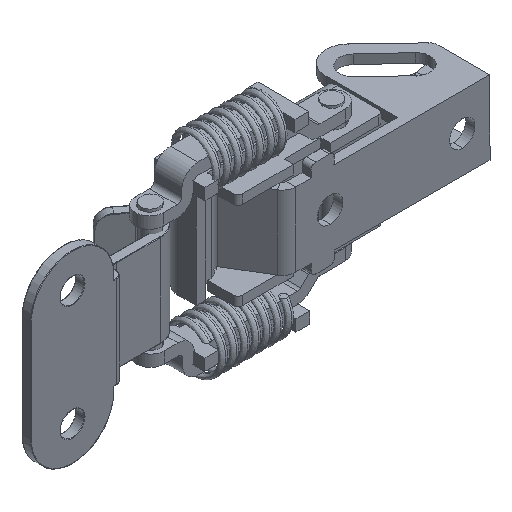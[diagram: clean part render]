
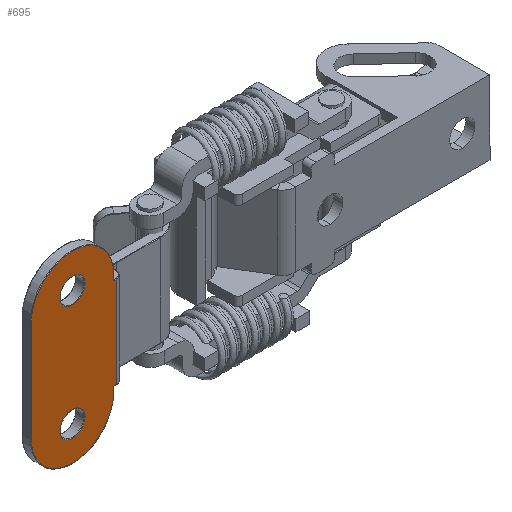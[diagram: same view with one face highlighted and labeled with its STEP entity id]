
A CAD part, isometric view. The second image highlights one B-rep face of the part: STEP entity #695.
In plain terms, the highlighted planar face has unit normal (0, -1, 0).
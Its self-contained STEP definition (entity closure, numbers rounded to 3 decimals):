
#559 = EDGE_CURVE ( 'NONE', #563, #639, #2573, .T. ) ;
#563 = VERTEX_POINT ( 'NONE', #2557 ) ;
#571 = VERTEX_POINT ( 'NONE', #2610 ) ;
#631 = EDGE_CURVE ( 'NONE', #634, #571, #2725, .T. ) ;
#634 = VERTEX_POINT ( 'NONE', #2726 ) ;
#639 = VERTEX_POINT ( 'NONE', #2730 ) ;
#648 = VERTEX_POINT ( 'NONE', #2755 ) ;
#650 = VERTEX_POINT ( 'NONE', #2749 ) ;
#652 = ORIENTED_EDGE ( 'NONE', *, *, #721, .T. ) ;
#682 = EDGE_CURVE ( 'NONE', #696, #648, #2819, .T. ) ;
#683 = VERTEX_POINT ( 'NONE', #2811 ) ;
#684 = VERTEX_POINT ( 'NONE', #2810 ) ;
#685 = ORIENTED_EDGE ( 'NONE', *, *, #682, .F. ) ;
#686 = EDGE_CURVE ( 'NONE', #696, #650, #2770, .T. ) ;
#687 = ORIENTED_EDGE ( 'NONE', *, *, #686, .T. ) ;
#688 = EDGE_CURVE ( 'NONE', #650, #684, #2816, .T. ) ;
#689 = EDGE_CURVE ( 'NONE', #764, #702, #2858, .T. ) ;
#690 = EDGE_CURVE ( 'NONE', #684, #683, #2859, .T. ) ;
#692 = ORIENTED_EDGE ( 'NONE', *, *, #756, .T. ) ;
#693 = EDGE_CURVE ( 'NONE', #683, #694, #2802, .T. ) ;
#694 = VERTEX_POINT ( 'NONE', #2848 ) ;
#695 = ADVANCED_FACE ( 'NONE', ( #2843, #2846, #2845 ), #2854, .F. ) ;
#696 = VERTEX_POINT ( 'NONE', #2842 ) ;
#697 = ORIENTED_EDGE ( 'NONE', *, *, #631, .T. ) ;
#698 = ORIENTED_EDGE ( 'NONE', *, *, #719, .T. ) ;
#700 = ORIENTED_EDGE ( 'NONE', *, *, #559, .T. ) ;
#701 = EDGE_CURVE ( 'NONE', #702, #703, #2833, .T. ) ;
#702 = VERTEX_POINT ( 'NONE', #2834 ) ;
#703 = VERTEX_POINT ( 'NONE', #2836 ) ;
#704 = EDGE_LOOP ( 'NONE', ( #705, #707, #685, #687, #706, #718, #755, #692, #760 ) ) ;
#705 = ORIENTED_EDGE ( 'NONE', *, *, #701, .T. ) ;
#706 = ORIENTED_EDGE ( 'NONE', *, *, #688, .T. ) ;
#707 = ORIENTED_EDGE ( 'NONE', *, *, #708, .T. ) ;
#708 = EDGE_CURVE ( 'NONE', #703, #648, #2847, .T. ) ;
#718 = ORIENTED_EDGE ( 'NONE', *, *, #690, .T. ) ;
#719 = EDGE_CURVE ( 'NONE', #639, #563, #2875, .T. ) ;
#720 = EDGE_LOOP ( 'NONE', ( #700, #698 ) ) ;
#721 = EDGE_CURVE ( 'NONE', #571, #634, #2870, .T. ) ;
#722 = EDGE_LOOP ( 'NONE', ( #697, #652 ) ) ;
#755 = ORIENTED_EDGE ( 'NONE', *, *, #693, .T. ) ;
#756 = EDGE_CURVE ( 'NONE', #694, #764, #2956, .T. ) ;
#760 = ORIENTED_EDGE ( 'NONE', *, *, #689, .T. ) ;
#764 = VERTEX_POINT ( 'NONE', #2957 ) ;
#2557 = CARTESIAN_POINT ( 'NONE',  ( 7.5, 0., -6.3 ) ) ;
#2560 = DIRECTION ( 'NONE',  ( 0., 0., 1. ) ) ;
#2561 = DIRECTION ( 'NONE',  ( 0., 1., 0. ) ) ;
#2562 = CARTESIAN_POINT ( 'NONE',  ( 7.5, 0., -9. ) ) ;
#2563 = AXIS2_PLACEMENT_3D ( 'NONE', #2562, #2561, #2560 ) ;
#2573 = CIRCLE ( 'NONE', #2563, 2.7 ) ;
#2610 = CARTESIAN_POINT ( 'NONE',  ( 32.5, 0., -11.7 ) ) ;
#2681 = DIRECTION ( 'NONE',  ( 0., 1., 0. ) ) ;
#2723 = DIRECTION ( 'NONE',  ( 0., 0., 1. ) ) ;
#2724 = AXIS2_PLACEMENT_3D ( 'NONE', #2731, #2681, #2723 ) ;
#2725 = CIRCLE ( 'NONE', #2724, 2.7 ) ;
#2726 = CARTESIAN_POINT ( 'NONE',  ( 32.5, 0., -6.3 ) ) ;
#2730 = CARTESIAN_POINT ( 'NONE',  ( 7.5, 0., -11.7 ) ) ;
#2731 = CARTESIAN_POINT ( 'NONE',  ( 32.5, 0., -9. ) ) ;
#2749 = CARTESIAN_POINT ( 'NONE',  ( 31., 0., -17.9 ) ) ;
#2755 = CARTESIAN_POINT ( 'NONE',  ( 29.9, 0., -18.1 ) ) ;
#2769 = CARTESIAN_POINT ( 'NONE',  ( 40., 0., -17.9 ) ) ;
#2770 = LINE ( 'NONE', #2769, #2805 ) ;
#2799 = DIRECTION ( 'NONE',  ( 0., 0., 1. ) ) ;
#2800 = DIRECTION ( 'NONE',  ( 0., -1., 0. ) ) ;
#2801 = CARTESIAN_POINT ( 'NONE',  ( 31., 0., -9. ) ) ;
#2802 = CIRCLE ( 'NONE', #2852, 8.9 ) ;
#2803 = DIRECTION ( 'NONE',  ( 0., -1., 0. ) ) ;
#2804 = DIRECTION ( 'NONE',  ( 1., 0., 0. ) ) ;
#2805 = VECTOR ( 'NONE', #2804, 1000. ) ;
#2806 = AXIS2_PLACEMENT_3D ( 'NONE', #2801, #2800, #2799 ) ;
#2807 = DIRECTION ( 'NONE',  ( 0., 0., 1. ) ) ;
#2808 = DIRECTION ( 'NONE',  ( 0., -1., 0. ) ) ;
#2809 = CARTESIAN_POINT ( 'NONE',  ( 30.1, 0., -18.1 ) ) ;
#2810 = CARTESIAN_POINT ( 'NONE',  ( 31., 0., -0.1 ) ) ;
#2811 = CARTESIAN_POINT ( 'NONE',  ( 9., 0., -0.1 ) ) ;
#2816 = CIRCLE ( 'NONE', #2806, 8.9 ) ;
#2817 = AXIS2_PLACEMENT_3D ( 'NONE', #2809, #2808, #2807 ) ;
#2819 = CIRCLE ( 'NONE', #2817, 0.2 ) ;
#2830 = DIRECTION ( 'NONE',  ( 1., 0., 0. ) ) ;
#2831 = VECTOR ( 'NONE', #2830, 1000. ) ;
#2832 = CARTESIAN_POINT ( 'NONE',  ( 40., 0., -18.5 ) ) ;
#2833 = LINE ( 'NONE', #2832, #2831 ) ;
#2834 = CARTESIAN_POINT ( 'NONE',  ( 10.1, 0., -18.5 ) ) ;
#2835 = AXIS2_PLACEMENT_3D ( 'NONE', #2866, #2868, #2926 ) ;
#2836 = CARTESIAN_POINT ( 'NONE',  ( 29.9, 0., -18.5 ) ) ;
#2837 = DIRECTION ( 'NONE',  ( 0., 0., 1. ) ) ;
#2839 = DIRECTION ( 'NONE',  ( 0., 1., 0. ) ) ;
#2840 = VECTOR ( 'NONE', #2894, 1000. ) ;
#2841 = CARTESIAN_POINT ( 'NONE',  ( 29.9, 0., 0. ) ) ;
#2842 = CARTESIAN_POINT ( 'NONE',  ( 30.1, 0., -17.9 ) ) ;
#2843 = FACE_BOUND ( 'NONE', #722, .T. ) ;
#2844 = DIRECTION ( 'NONE',  ( 0., 0., 1. ) ) ;
#2845 = FACE_OUTER_BOUND ( 'NONE', #704, .T. ) ;
#2846 = FACE_BOUND ( 'NONE', #720, .T. ) ;
#2847 = LINE ( 'NONE', #2841, #2840 ) ;
#2848 = CARTESIAN_POINT ( 'NONE',  ( 9., 0., -17.9 ) ) ;
#2849 = AXIS2_PLACEMENT_3D ( 'NONE', #2860, #2839, #2837 ) ;
#2850 = DIRECTION ( 'NONE',  ( -1., 0., 0. ) ) ;
#2851 = VECTOR ( 'NONE', #2850, 1000. ) ;
#2852 = AXIS2_PLACEMENT_3D ( 'NONE', #2861, #2803, #2844 ) ;
#2853 = CARTESIAN_POINT ( 'NONE',  ( 40., 0., -0.1 ) ) ;
#2854 = PLANE ( 'NONE',  #2849 ) ;
#2855 = DIRECTION ( 'NONE',  ( 0., 0., -1. ) ) ;
#2856 = VECTOR ( 'NONE', #2855, 1000. ) ;
#2857 = CARTESIAN_POINT ( 'NONE',  ( 10.1, 0., 0. ) ) ;
#2858 = LINE ( 'NONE', #2857, #2856 ) ;
#2859 = LINE ( 'NONE', #2853, #2851 ) ;
#2860 = CARTESIAN_POINT ( 'NONE',  ( 40., 0., 0. ) ) ;
#2861 = CARTESIAN_POINT ( 'NONE',  ( 9., 0., -9. ) ) ;
#2863 = DIRECTION ( 'NONE',  ( 0., 0., 1. ) ) ;
#2864 = DIRECTION ( 'NONE',  ( 0., 1., 0. ) ) ;
#2865 = CARTESIAN_POINT ( 'NONE',  ( 7.5, 0., -9. ) ) ;
#2866 = CARTESIAN_POINT ( 'NONE',  ( 32.5, 0., -9. ) ) ;
#2868 = DIRECTION ( 'NONE',  ( 0., 1., 0. ) ) ;
#2870 = CIRCLE ( 'NONE', #2835, 2.7 ) ;
#2875 = CIRCLE ( 'NONE', #2884, 2.7 ) ;
#2884 = AXIS2_PLACEMENT_3D ( 'NONE', #2865, #2864, #2863 ) ;
#2894 = DIRECTION ( 'NONE',  ( 0., 0., 1. ) ) ;
#2926 = DIRECTION ( 'NONE',  ( 0., 0., 1. ) ) ;
#2954 = VECTOR ( 'NONE', #3011, 1000. ) ;
#2955 = CARTESIAN_POINT ( 'NONE',  ( 40., 0., -17.9 ) ) ;
#2956 = LINE ( 'NONE', #2955, #2954 ) ;
#2957 = CARTESIAN_POINT ( 'NONE',  ( 10.1, 0., -17.9 ) ) ;
#3011 = DIRECTION ( 'NONE',  ( 1., 0., 0. ) ) ;
